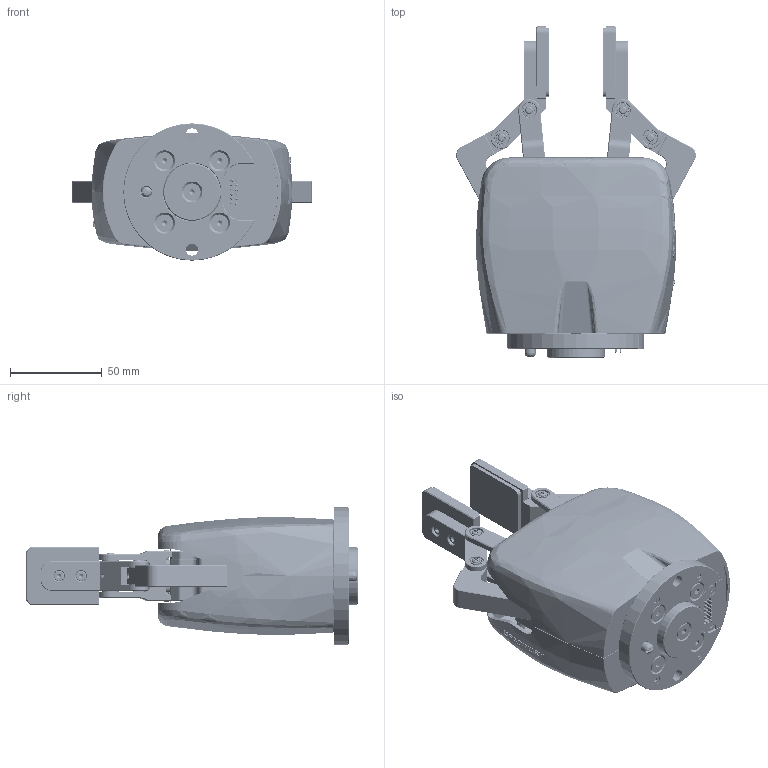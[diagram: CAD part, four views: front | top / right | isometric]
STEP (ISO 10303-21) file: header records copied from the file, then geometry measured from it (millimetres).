
FILE_DESCRIPTION (( 'STEP AP214' ), '1' );
FILE_NAME ('Gripper AG1200 20250710.STEP', '2025-07-10T07:22:28', ( '' ), ( '' ), 'SwSTEP 2.0', 'SolidWorks 2019', '' );
FILE_SCHEMA (( 'AUTOMOTIVE_DESIGN' ));
Length unit declared in the file: millimetre
Products named in the file (1): Gripper AG1200 20250710
Bounding box: 130.92 x 181.32 x 75 mm (x, y, z)
Volume: 383800.7 mm3; surface area: 177891.3 mm2
Topology: 185 solids, 191 shells, 4101 faces, 10259 edges, 6469 vertices
Faces by surface type: plane 1395, cylinder 1164, bspline 717, cone 428, sphere 221, torus 176
Entity records: 213470 total; most frequent: CARTESIAN_POINT 76473, ORIENTED_EDGE 19378, DIRECTION 17294, EDGE_CURVE 9689, AXIS2_PLACEMENT_3D 6673, VERTEX_POINT 6155, EDGE_LOOP 4482, UNCERTAINTY_MEASURE_WITH_UNIT 4288
